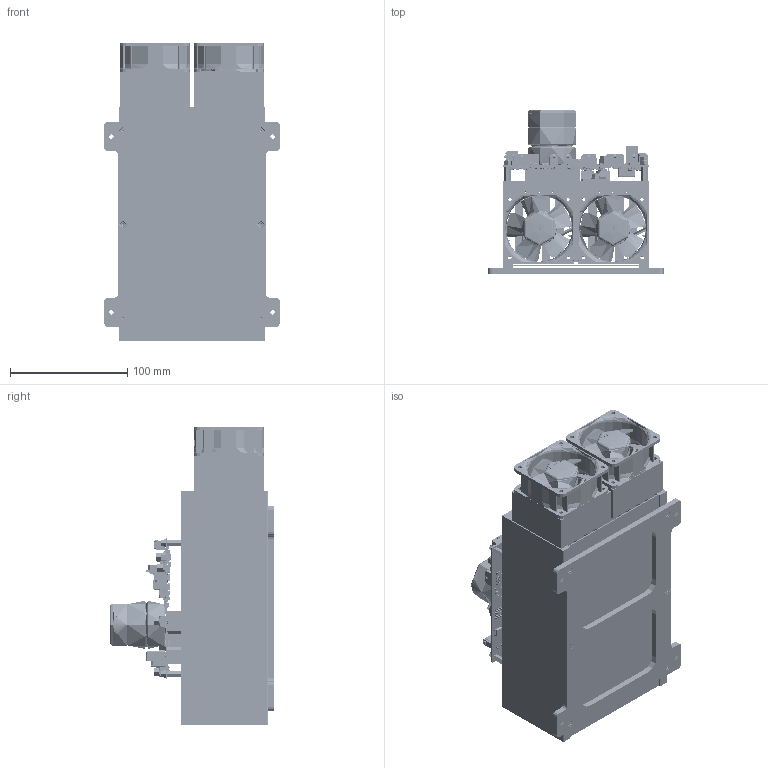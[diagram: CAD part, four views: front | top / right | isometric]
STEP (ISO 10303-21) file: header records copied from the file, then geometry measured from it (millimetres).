
FILE_DESCRIPTION (( 'STEP AP214' ), '1' );
FILE_NAME ('482.07.00.000-A01_Äðàéâåð äèîäíûé.STEP', '2026-02-09T18:19:02', ( '' ), ( '' ), 'SwSTEP 2.0', 'SolidWorks 2019', '' );
FILE_SCHEMA (( 'AUTOMOTIVE_DESIGN' ));
Length unit declared in the file: millimetre
Products named in the file (16): 妈眚 󊅠 DIN912; 482.06.00.001-A01_砑僔蠂縺; Q1_sdc-400 LV; Âèíò DIN912 M3x8 screw with spring and washer; 482.10.00.013-A01_砑僔蠂縺; 妈眚 󊅙0 DIN912; 482.06.00.002-B01_冓儰僗闉; 妈眚 󉱭0 DIN7991; ﾘ琺矜 ﾌ4 DIN125; 482.07.00.000-A01_Äðàéâåð äèîäíûé; SDC-400 HV; 妈眚 󉱭6 DIN7991; 482.10.00.001-A01_砱謽闀豂膹馯罻; ﾘ琺矜 ﾌ4 DIN127; 栺鍣罻 PCHSN-12; 482.10.00.012-A01_砑僔蠂縺
Assembly tree (41 placements, depth 2):
  482.07.00.000-A01_Äðàéâåð äèîäíûé
    482.06.00.001-A01_砑僔蠂縺
    482.06.00.002-B01_冓儰僗闉
    482.10.00.001-A01_砱謽闀豂膹馯罻
    482.10.00.012-A01_砑僔蠂縺
    482.10.00.013-A01_砑僔蠂縺
    妈眚 󉱭0 DIN7991  x6
    Âèíò DIN912 M3x8 screw with spring and washer  x6
    ﾘ琺矜 ﾌ4 DIN125  x4
    ﾘ琺矜 ﾌ4 DIN127  x4
    妈眚 󊅙0 DIN912  x4
    栺鍣罻 PCHSN-12  x4
    妈眚 󉱭6 DIN7991  x2
    妈眚 󊅠 DIN912  x4
    SDC-400 HV
    Q1_sdc-400 LV
Bounding box: 150 x 139.99 x 255.4 mm (x, y, z)
Topology: 57 solids, 2925 shells, 18072 faces, 77992 edges, 61839 vertices
Faces by surface type: plane 11561, cylinder 3227, bspline 2800, cone 241, torus 157, sphere 86
Full cylindrical faces by diameter (mm): 0.08 x2, 0.156 x1, 0.2 x8, 0.438 x1, 0.488 x4, 0.575 x4, 0.63 x5, 0.75 x4, 0.83 x3, 0.9 x6, 0.938 x1, 0.98 x1, 1 x51, 1.25 x1, 1.26 x3, 1.45 x2, 1.7 x32, 2.5 x18, 3 x20, 3.2 x10, 3.242 x6, 3.5 x4, 3.6 x6, 4 x13, 4.065 x3, 4.2 x1, 4.3 x10, 4.6 x4, 5 x8, 5.5 x6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
Entity records: 1110492 total; most frequent: CARTESIAN_POINT 364510, ORIENTED_EDGE 106086, DIRECTION 88708, EDGE_CURVE 76291, VERTEX_POINT 61232, VECTOR 45636, LINE 45636, B_SPLINE_CURVE_WITH_KNOTS 23307
